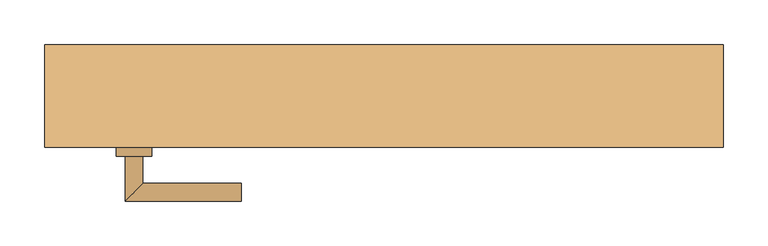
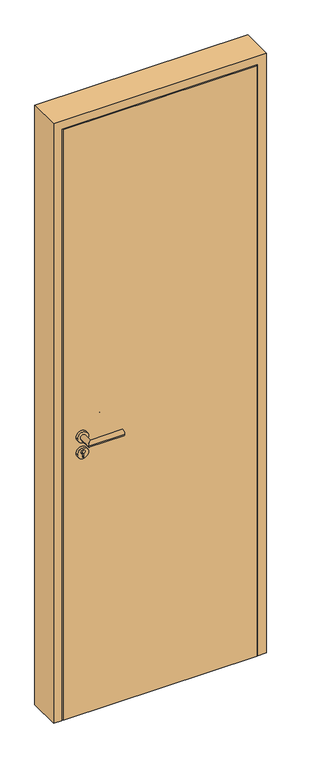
"""IFC4 building model written with IfcOpenShell, lengths in millimetres: door geometry, TU DF 1 - Rahmenstock flächenbündig variabel : ML - H - 885 x 2260."""

from ifc_helpers import new_model, si_unit, point, frame, frame_2d, origin, origin_with_axes, place, context, project, spatial, polyline, circle_curve, ellipse_curve, trimmed, segment, composite_curve, outline, extrude, faceted_brep, source, transform, mapped, element, save
from ifc_brep_helpers import plane_surface, cylinder_surface, advanced_brep


def door_2d55e884(model_context):
    return source(origin(), model_context, "Body", "SolidModel", [
        extrude(outline(polyline([(346.0, -57.5), (-346.0, -57.5), (-346.0, -12.5), (346.0, -12.5), (346.0, -57.5)])), origin_with_axes(), (0.0, 0.0, 1.0), 2226.0),
        advanced_brep(
        [(-270.0, -67.5, 1050.0), (-290.0, -67.5, 1050.0), (-290.0, -117.5, 1050.0), (-270.0, -97.5, 1050.0), (-160.0, -97.5, 1050.0), (-160.0, -117.5, 1050.0)],
        [
            (0, 1, circle_curve(frame((-280.0, -67.5, 1050.0), z_axis=(0.0, 1.0, 0.0), x_axis=(-1.0, 0.0, 0.0)), 10.0)),
            (1, 0, circle_curve(frame((-280.0, -67.5, 1050.0), z_axis=(0.0, 1.0, 0.0), x_axis=(-1.0, 0.0, 0.0)), 10.0)),
            (1, 2),
            (2, 3, ellipse_curve(frame((-280.0, -107.5, 1050.0), z_axis=(-0.7071067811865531, 0.7071067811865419, 0.0), x_axis=(0.707106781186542, 0.707106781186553, 0.0)), 14.1421356, 10.0)),
            (3, 0),
            (3, 2, ellipse_curve(frame((-280.0, -107.5, 1050.0), z_axis=(-0.7071067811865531, 0.7071067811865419, 0.0), x_axis=(0.707106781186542, 0.707106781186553, 0.0)), 14.1421356, 10.0)),
            (4, 5, circle_curve(frame((-160.0, -107.5, 1050.0), z_axis=(1.0, 0.0, 0.0), x_axis=(0.0, -1.0, 0.0)), 10.0)),
            (5, 4, circle_curve(frame((-160.0, -107.5, 1050.0), z_axis=(1.0, 0.0, 0.0), x_axis=(0.0, -1.0, 0.0)), 10.0)),
            (2, 5),
            (4, 3),
        ],
        [
            plane_surface(frame((-280.0, -67.5, 1050.0), z_axis=(0.0, 1.0, 0.0), x_axis=(0.0, 0.0, 1.0))),
            cylinder_surface(frame((-280.0, -67.5, 1050.0), z_axis=(0.0, 1.0, 0.0), x_axis=(-1.0, 0.0, 0.0)), 10.0),
            plane_surface(frame((-160.0, -107.5, 1050.0), z_axis=(1.0, 0.0, 0.0), x_axis=(0.0, 0.0, 1.0))),
            cylinder_surface(frame((-280.0, -107.5, 1050.0), z_axis=(-1.0, 0.0, 0.0), x_axis=(0.0, -1.0, 0.0)), 10.0),
        ],
        [
            (0, [[1, 2]]),
            (1, [[3, 4, 5, -2]]),
            (1, [[-5, 6, -3, -1]]),
            (2, [[7, 8]]),
            (3, [[9, -7, 10, -4]]),
            (3, [[-10, -8, -9, -6]]),
        ],
    ),
        extrude(outline(composite_curve([segment(trimmed(circle_curve(frame_2d((990.0, -280.0)), 20.0), [point((990.0, -300.0))], [point((990.0, -260.0))], False, "CARTESIAN"), True, "CONTINUOUS"), segment(trimmed(circle_curve(frame_2d((990.0, -280.0)), 20.0), [point((990.0, -260.0))], [point((990.0, -300.0))], False, "CARTESIAN"), True, "CONTINUOUS")], self_intersect=False), holes=[composite_curve([segment(polyline([(976.4601385, -282.397268), (988.4749012, -282.397268)]), True, "CONTINUOUS"), segment(trimmed(circle_curve(frame_2d((995.0361633, -280.0)), 6.9854888), [point((988.4749012, -282.397268))], [point((988.4749012, -277.602732))], True, "CARTESIAN"), True, "CONTINUOUS"), segment(polyline([(988.4749012, -277.602732), (976.4601385, -277.602732)]), True, "CONTINUOUS"), segment(trimmed(circle_curve(frame_2d((976.4601385, -280.0)), 2.397268), [point((976.4601385, -277.602732))], [point((976.4601385, -282.397268))], True, "CARTESIAN"), True, "CONTINUOUS")], self_intersect=False)]), frame((0.0, -67.5, 0.0), z_axis=(0.0, 1.0, 0.0), x_axis=(0.0, 0.0, 1.0)), (0.0, 0.0, 1.0), 10.0),
        advanced_brep(
        [(-270.0, -67.5, 1050.0), (-290.0, -67.5, 1050.0), (-290.0, -117.5, 1050.0), (-270.0, -97.5, 1050.0), (-160.0, -97.5, 1050.0), (-160.0, -117.5, 1050.0)],
        [
            (0, 1, circle_curve(frame((-280.0, -67.5, 1050.0), z_axis=(0.0, 1.0, 0.0), x_axis=(-1.0, 0.0, 0.0)), 10.0)),
            (1, 0, circle_curve(frame((-280.0, -67.5, 1050.0), z_axis=(0.0, 1.0, 0.0), x_axis=(-1.0, 0.0, 0.0)), 10.0)),
            (1, 2),
            (2, 3, ellipse_curve(frame((-280.0, -107.5, 1050.0), z_axis=(-0.7071067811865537, 0.7071067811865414, 0.0), x_axis=(0.7071067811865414, 0.7071067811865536, 0.0)), 14.1421356, 10.0)),
            (3, 0),
            (3, 2, ellipse_curve(frame((-280.0, -107.5, 1050.0), z_axis=(-0.7071067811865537, 0.7071067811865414, 0.0), x_axis=(0.7071067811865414, 0.7071067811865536, 0.0)), 14.1421356, 10.0)),
            (4, 5, circle_curve(frame((-160.0, -107.5, 1050.0), z_axis=(1.0, 0.0, 0.0), x_axis=(0.0, -1.0, 0.0)), 10.0)),
            (5, 4, circle_curve(frame((-160.0, -107.5, 1050.0), z_axis=(1.0, 0.0, 0.0), x_axis=(0.0, -1.0, 0.0)), 10.0)),
            (2, 5),
            (4, 3),
        ],
        [
            plane_surface(frame((-280.0, -67.5, 1050.0), z_axis=(0.0, 1.0, 0.0), x_axis=(0.0, 0.0, 1.0))),
            cylinder_surface(frame((-280.0, -67.5, 1050.0), z_axis=(0.0, 1.0, 0.0), x_axis=(-1.0, 0.0, 0.0)), 10.0),
            plane_surface(frame((-160.0, -107.5, 1050.0), z_axis=(1.0, 0.0, 0.0), x_axis=(0.0, 0.0, 1.0))),
            cylinder_surface(frame((-280.0, -107.5, 1050.0), z_axis=(-1.0, 0.0, 0.0), x_axis=(0.0, -1.0, 0.0)), 10.0),
        ],
        [
            (0, [[1, 2]]),
            (1, [[3, 4, 5, -2]]),
            (1, [[-5, 6, -3, -1]]),
            (2, [[7, 8]]),
            (3, [[9, -7, 10, -4]]),
            (3, [[-10, -8, -9, -6]]),
        ],
    ),
        extrude(outline(composite_curve([segment(trimmed(circle_curve(frame_2d((1050.0, -280.0)), 20.0), [point((1050.0, -300.0))], [point((1050.0, -260.0))], False, "CARTESIAN"), True, "CONTINUOUS"), segment(trimmed(circle_curve(frame_2d((1050.0, -280.0)), 20.0), [point((1050.0, -260.0))], [point((1050.0, -300.0))], False, "CARTESIAN"), True, "CONTINUOUS")], self_intersect=False)), frame((0.0, -67.5, 0.0), z_axis=(0.0, 1.0, 0.0), x_axis=(0.0, 0.0, 1.0)), (0.0, 0.0, 1.0), 10.0),
        advanced_brep(
        [(-270.0, -2.5, 1050.0), (-290.0, -2.5, 1050.0), (-270.0, 27.5, 1050.0), (-290.0, 47.5, 1050.0), (-160.0, 27.5, 1050.0), (-160.0, 47.5, 1050.0)],
        [
            (0, 1, circle_curve(frame((-280.0, -2.5, 1050.0), z_axis=(0.0, -1.0, 0.0), x_axis=(-1.0, 0.0, 0.0)), 10.0)),
            (1, 0, circle_curve(frame((-280.0, -2.5, 1050.0), z_axis=(0.0, -1.0, 0.0), x_axis=(-1.0, 0.0, 0.0)), 10.0)),
            (0, 2),
            (2, 3, ellipse_curve(frame((-280.0, 37.5, 1050.0), z_axis=(-0.7071067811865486, -0.7071067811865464, 0.0), x_axis=(0.7071067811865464, -0.7071067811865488, 0.0)), 14.1421356, 10.0)),
            (3, 1),
            (3, 2, ellipse_curve(frame((-280.0, 37.5, 1050.0), z_axis=(-0.7071067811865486, -0.7071067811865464, 0.0), x_axis=(0.7071067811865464, -0.7071067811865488, 0.0)), 14.1421356, 10.0)),
            (4, 5, circle_curve(frame((-160.0, 37.5, 1050.0), z_axis=(1.0, 0.0, 0.0), x_axis=(0.0, 1.0, 0.0)), 10.0)),
            (5, 4, circle_curve(frame((-160.0, 37.5, 1050.0), z_axis=(1.0, 0.0, 0.0), x_axis=(0.0, 1.0, 0.0)), 10.0)),
            (2, 4),
            (5, 3),
        ],
        [
            plane_surface(frame((-280.0, -2.5, 1050.0), z_axis=(0.0, -1.0, 0.0), x_axis=(0.0, 0.0, 1.0))),
            cylinder_surface(frame((-280.0, -2.5, 1050.0), z_axis=(0.0, -1.0, 0.0), x_axis=(-1.0, 0.0, 0.0)), 10.0),
            plane_surface(frame((-160.0, 37.5, 1050.0), z_axis=(1.0, 0.0, 0.0), x_axis=(0.0, 0.0, 1.0))),
            cylinder_surface(frame((-280.0, 37.5, 1050.0), z_axis=(-1.0, 0.0, 0.0), x_axis=(0.0, 1.0, 0.0)), 10.0),
        ],
        [
            (0, [[1, 2]]),
            (1, [[-1, 3, 4, 5]]),
            (1, [[-2, -5, 6, -3]]),
            (2, [[7, 8]]),
            (3, [[-4, 9, -8, 10]]),
            (3, [[-6, -10, -7, -9]]),
        ],
    ),
        extrude(outline(composite_curve([segment(trimmed(circle_curve(frame_2d((990.0, -280.0)), 20.0), [point((990.0, -300.0))], [point((990.0, -260.0))], False, "CARTESIAN"), True, "CONTINUOUS"), segment(trimmed(circle_curve(frame_2d((990.0, -280.0)), 20.0), [point((990.0, -260.0))], [point((990.0, -300.0))], False, "CARTESIAN"), True, "CONTINUOUS")], self_intersect=False), holes=[composite_curve([segment(polyline([(976.4601385, -282.397268), (988.4749012, -282.397268)]), True, "CONTINUOUS"), segment(trimmed(circle_curve(frame_2d((995.0361633, -280.0)), 6.9854888), [point((988.4749012, -282.397268))], [point((988.4749012, -277.602732))], True, "CARTESIAN"), True, "CONTINUOUS"), segment(polyline([(988.4749012, -277.602732), (976.4601385, -277.602732)]), True, "CONTINUOUS"), segment(trimmed(circle_curve(frame_2d((976.4601385, -280.0)), 2.397268), [point((976.4601385, -277.602732))], [point((976.4601385, -282.397268))], True, "CARTESIAN"), True, "CONTINUOUS")], self_intersect=False)]), frame((0.0, -12.5, 0.0), z_axis=(0.0, 1.0, 0.0), x_axis=(0.0, 0.0, 1.0)), (0.0, 0.0, 1.0), 10.0),
        advanced_brep(
        [(-270.0, -2.5, 1050.0), (-290.0, -2.5, 1050.0), (-270.0, 27.5, 1050.0), (-290.0, 47.5, 1050.0), (-160.0, 27.5, 1050.0), (-160.0, 47.5, 1050.0)],
        [
            (0, 1, circle_curve(frame((-280.0, -2.5, 1050.0), z_axis=(0.0, -1.0, 0.0), x_axis=(-1.0, 0.0, 0.0)), 10.0)),
            (1, 0, circle_curve(frame((-280.0, -2.5, 1050.0), z_axis=(0.0, -1.0, 0.0), x_axis=(-1.0, 0.0, 0.0)), 10.0)),
            (0, 2),
            (2, 3, ellipse_curve(frame((-280.0, 37.5, 1050.0), z_axis=(-0.7071067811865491, -0.7071067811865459, 0.0), x_axis=(0.7071067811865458, -0.7071067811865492, 0.0)), 14.1421356, 10.0)),
            (3, 1),
            (3, 2, ellipse_curve(frame((-280.0, 37.5, 1050.0), z_axis=(-0.7071067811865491, -0.7071067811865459, 0.0), x_axis=(0.7071067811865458, -0.7071067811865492, 0.0)), 14.1421356, 10.0)),
            (4, 5, circle_curve(frame((-160.0, 37.5, 1050.0), z_axis=(1.0, 0.0, 0.0), x_axis=(0.0, 1.0, 0.0)), 10.0)),
            (5, 4, circle_curve(frame((-160.0, 37.5, 1050.0), z_axis=(1.0, 0.0, 0.0), x_axis=(0.0, 1.0, 0.0)), 10.0)),
            (2, 4),
            (5, 3),
        ],
        [
            plane_surface(frame((-280.0, -2.5, 1050.0), z_axis=(0.0, -1.0, 0.0), x_axis=(0.0, 0.0, 1.0))),
            cylinder_surface(frame((-280.0, -2.5, 1050.0), z_axis=(0.0, -1.0, 0.0), x_axis=(-1.0, 0.0, 0.0)), 10.0),
            plane_surface(frame((-160.0, 37.5, 1050.0), z_axis=(1.0, 0.0, 0.0), x_axis=(0.0, 0.0, 1.0))),
            cylinder_surface(frame((-280.0, 37.5, 1050.0), z_axis=(-1.0, 0.0, 0.0), x_axis=(0.0, 1.0, 0.0)), 10.0),
        ],
        [
            (0, [[1, 2]]),
            (1, [[-1, 3, 4, 5]]),
            (1, [[-2, -5, 6, -3]]),
            (2, [[7, 8]]),
            (3, [[-4, 9, -8, 10]]),
            (3, [[-6, -10, -7, -9]]),
        ],
    ),
        extrude(outline(composite_curve([segment(trimmed(circle_curve(frame_2d((1050.0, -280.0)), 20.0), [point((1050.0, -300.0))], [point((1050.0, -260.0))], False, "CARTESIAN"), True, "CONTINUOUS"), segment(trimmed(circle_curve(frame_2d((1050.0, -280.0)), 20.0), [point((1050.0, -260.0))], [point((1050.0, -300.0))], False, "CARTESIAN"), True, "CONTINUOUS")], self_intersect=False)), frame((0.0, -12.5, 0.0), z_axis=(0.0, 1.0, 0.0), x_axis=(0.0, 0.0, 1.0)), (0.0, 0.0, 1.0), 10.0),
        faceted_brep([(-350.0, -57.5, 0.0), (-380.0, -57.5, 0.0), (-380.0, 57.5, 0.0), (-335.0, 57.5, 0.0), (-335.0, -12.5, 0.0), (-350.0, -12.5, 0.0), (-350.0, -12.5, 2230.0), (-350.0, -57.5, 2230.0), (-335.0, -12.5, 2215.0), (335.0, -12.5, 2215.0), (335.0, -12.5, 0.0), (350.0, -12.5, 0.0), (350.0, -12.5, 2230.0), (-335.0, 57.5, 2215.0), (-380.0, 57.5, 2260.0), (380.0, 57.5, 2260.0), (380.0, 57.5, 0.0), (335.0, 57.5, 0.0), (335.0, 57.5, 2215.0), (-380.0, -57.5, 2260.0), (350.0, -57.5, 2230.0), (350.0, -57.5, 0.0), (380.0, -57.5, 0.0), (380.0, -57.5, 2260.0)], [[[0, 1, 2, 3, 4, 5]], [[5, 6, 7, 0]], [[4, 8, 9, 10, 11, 12, 6, 5]], [[3, 13, 8, 4]], [[2, 14, 15, 16, 17, 18, 13, 3]], [[1, 19, 14, 2]], [[0, 7, 20, 21, 22, 23, 19, 1]], [[23, 22, 16, 15]], [[21, 11, 10, 17, 16, 22]], [[12, 11, 21, 20]], [[18, 17, 10, 9]], [[19, 23, 15, 14]], [[13, 18, 9, 8]], [[6, 12, 20, 7]]]),
    ])


if __name__ == "__main__":
    model = new_model("IFC4")
    model_context = context("Model", 3, world=origin())
    ifc_project = project(units=[si_unit("LENGTHUNIT", "METRE", prefix="MILLI")], contexts=[model_context])
    site = spatial("IfcSite", under=ifc_project)
    building = spatial("IfcBuilding", under=site)
    placement = place(None, origin())
    door_shape = door_2d55e884(model_context)
    element("IfcDoor", 1, ObjectType="TU DF 1 - Rahmenstock flächenbündig variabel : ML - H - 885 x 2260", at=placement, inside=building, context=model_context, shape_type="MappedRepresentation", body=[
        mapped(door_shape, transform((0.0, 0.0, 0.0), x_axis=(1.0, 0.0, 0.0), y_axis=(0.0, 1.0, 0.0), z_axis=(0.0, 0.0, 1.0))),
    ])
    save(model, "model.ifc")
